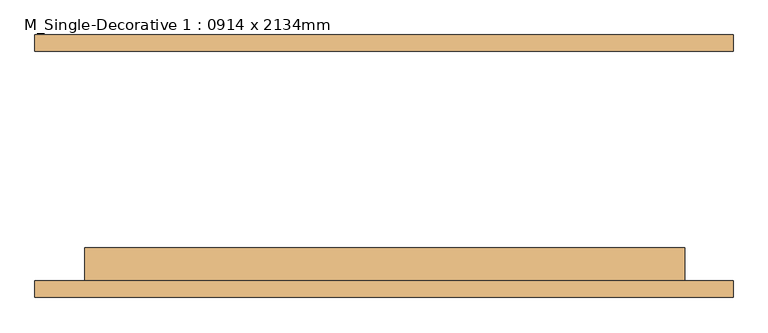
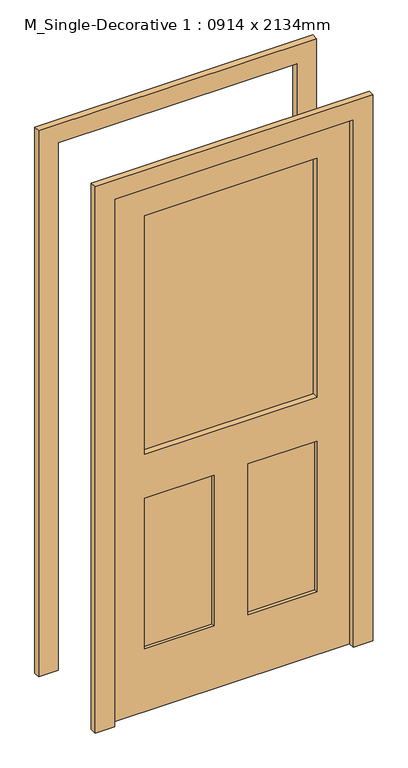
"""IFC4 building model written with IfcOpenShell, lengths in millimetres: door geometry, M_Single-Decorative 1 : 0914 x 2134mm."""

from ifc_helpers import new_model, si_unit, frame, origin, place, context, project, spatial, polyline, outline, extrude, source, transform, mapped, element, save


def m_single_decorative_1_0914_x_2134mm_a31491ec(model_context):
    return source(origin(), model_context, "Body", "SweptSolid", [
        extrude(outline(polyline([(2209.0, -532.0), (0.0, -532.0), (0.0, -457.0), (2134.0, -457.0), (2134.0, 457.0), (0.0, 457.0), (0.0, 532.0), (2209.0, 532.0), (2209.0, -532.0)])), frame((0.0, -200.0, 0.0), z_axis=(0.0, 1.0, 0.0), x_axis=(0.0, 0.0, 1.0)), (0.0, 0.0, 1.0), 25.0),
        extrude(outline(polyline([(66.2296572, -162.0), (66.2296572, -136.0), (330.0, -136.0), (330.0, -162.0), (66.2296572, -162.0)])), frame((0.0, 0.0, 254.0), z_axis=(0.0, 0.0, 1.0), x_axis=(1.0, 0.0, 0.0)), (0.0, 0.0, 1.0), 610.0),
        extrude(outline(polyline([(-330.0, -162.0), (-330.0, -136.0), (-64.0, -136.0), (-64.0, -162.0), (-330.0, -162.0)])), frame((0.0, 0.0, 254.0), z_axis=(0.0, 0.0, 1.0), x_axis=(1.0, 0.0, 0.0)), (0.0, 0.0, 1.0), 610.0),
        extrude(outline(polyline([(-330.0, -153.0), (-330.0, -147.0), (330.0, -147.0), (330.0, -153.0), (-330.0, -153.0)])), frame((0.0, 0.0, 1042.0), z_axis=(0.0, 0.0, 1.0), x_axis=(1.0, 0.0, 0.0)), (0.0, 0.0, 1.0), 965.0),
        extrude(outline(polyline([(2134.0, -455.6666667), (0.0, -455.6666667), (0.0, 458.3333333), (2134.0, 458.3333333), (2134.0, -455.6666667)]), holes=[polyline([(2007.0, -328.6666667), (2007.0, 331.3333333), (1042.0, 331.3333333), (1042.0, -328.6666667), (2007.0, -328.6666667)]), polyline([(864.0, 67.5629905), (864.0, 331.3333333), (254.0, 331.3333333), (254.0, 67.5629905), (864.0, 67.5629905)]), polyline([(864.0, -328.6666667), (864.0, -62.6666667), (254.0, -62.6666667), (254.0, -328.6666667), (864.0, -328.6666667)])]), frame((0.0, -175.0, 0.0), z_axis=(0.0, 1.0, 0.0), x_axis=(0.0, 0.0, 1.0)), (0.0, 0.0, 1.0), 51.0),
        extrude(outline(polyline([(2209.0, -532.0), (0.0, -532.0), (0.0, -457.0), (2134.0, -457.0), (2134.0, 457.0), (0.0, 457.0), (0.0, 532.0), (2209.0, 532.0), (2209.0, -532.0)])), frame((0.0, 175.0, 0.0), z_axis=(0.0, 1.0, 0.0), x_axis=(0.0, 0.0, 1.0)), (0.0, 0.0, 1.0), 25.0),
    ])


if __name__ == "__main__":
    model = new_model("IFC4")
    model_context = context("Model", 3, world=origin())
    ifc_project = project(units=[si_unit("LENGTHUNIT", "METRE", prefix="MILLI")], contexts=[model_context])
    site = spatial("IfcSite", under=ifc_project)
    building = spatial("IfcBuilding", under=site)
    placement = place(None, origin())
    m_single_decorative_1_0914_x_2134mm_shape = m_single_decorative_1_0914_x_2134mm_a31491ec(model_context)
    element("IfcDoor", 1, ObjectType="M_Single-Decorative 1 : 0914 x 2134mm", at=placement, inside=building, context=model_context, shape_type="MappedRepresentation", body=[
        mapped(m_single_decorative_1_0914_x_2134mm_shape, transform((0.0, 0.0, 0.0), x_axis=(1.0, 0.0, 0.0), y_axis=(0.0, 1.0, 0.0), z_axis=(0.0, 0.0, 1.0))),
    ])
    save(model, "model.ifc")
